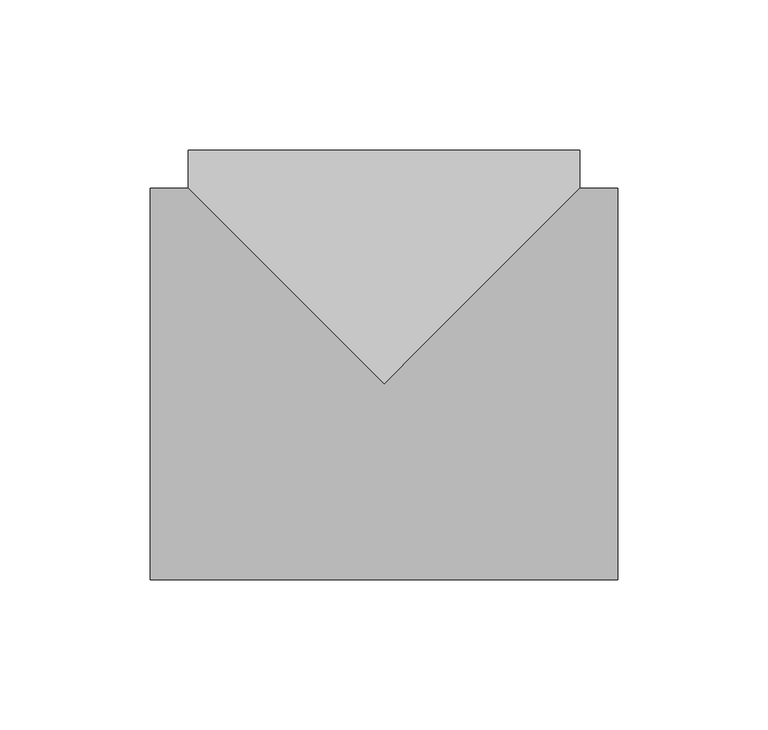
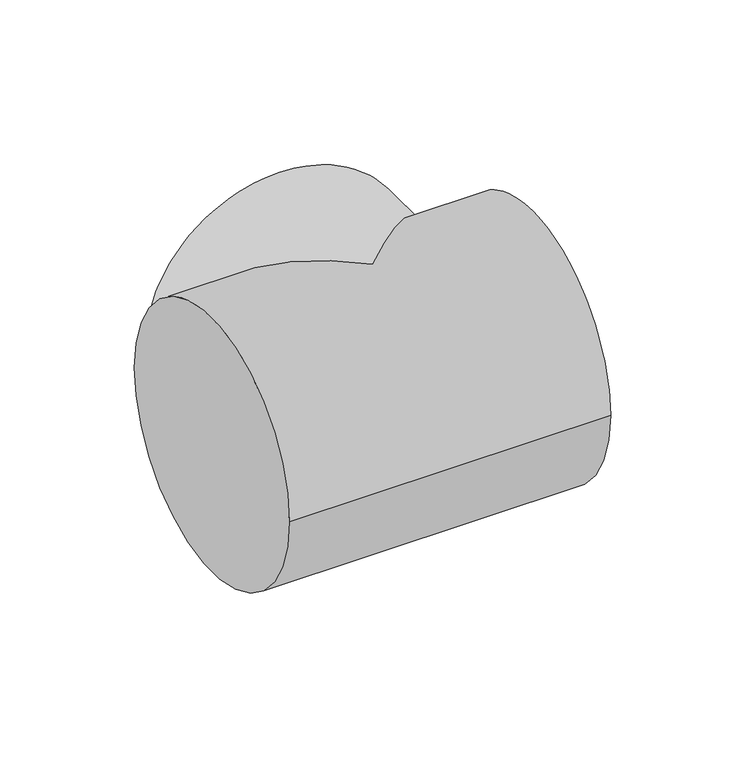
"""IFC4 building model written with IfcOpenShell, lengths in millimetres: pipe fitting geometry, M_Te - Genérica : Estándar."""

from ifc_helpers import new_model, si_unit, frame, origin, place, context, project, spatial, circle_curve, ellipse_curve, source, transform, mapped, element, save
from ifc_brep_helpers import plane_surface, cylinder_surface, advanced_brep


def pipe_fitting_66147aa9(model_context):
    return source(origin(), model_context, "Body", "AdvancedBrep", [
        advanced_brep(
        [(-77.7875, 65.0875, 0.0), (-77.7875, -65.0875, 0.0), (77.7875, 65.0875, 0.0), (77.7875, -65.0875, 0.0), (65.0940084, 65.0875, 0.0), (0.0, 0.0, 65.0875), (-65.0809922, 65.0875, 0.0), (0.0, 0.0, -65.0875), (-65.0797217, 77.7940077, 0.0), (65.0952776, 77.7809915, 0.0)],
        [
            (0, 1, circle_curve(frame((-77.7875, 0.0, 0.0), z_axis=(-1.0, 0.0, 0.0), x_axis=(0.0, -1.0, 0.0)), 65.0875)),
            (1, 0, circle_curve(frame((-77.7875, 0.0, 0.0), z_axis=(-1.0, 0.0, 0.0), x_axis=(0.0, -1.0, 0.0)), 65.0875)),
            (2, 3, circle_curve(frame((77.7875, 0.0, 0.0), z_axis=(1.0, 0.0, 0.0), x_axis=(0.0, -1.0, 0.0)), 65.0875)),
            (3, 2, circle_curve(frame((77.7875, 0.0, 0.0), z_axis=(1.0, 0.0, 0.0), x_axis=(0.0, -1.0, 0.0)), 65.0875)),
            (1, 3),
            (2, 4),
            (4, 5, ellipse_curve(frame((0.0, 0.0, 0.0), z_axis=(0.7070714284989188, -0.7071421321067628, 0.0), x_axis=(-0.7071421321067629, -0.7070714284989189, 0.0)), 92.0522275, 65.0875)),
            (5, 6, ellipse_curve(frame((0.0, 0.0, 0.0), z_axis=(-0.7071421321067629, -0.7070714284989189, 0.0), x_axis=(-0.7070714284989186, 0.7071421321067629, 0.0)), 92.0430237, 65.0875)),
            (6, 0),
            (6, 7, ellipse_curve(frame((0.0, 0.0, 0.0), z_axis=(-0.7071421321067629, -0.7070714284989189, 0.0), x_axis=(-0.7070714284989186, 0.7071421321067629, 0.0)), 92.0430237, 65.0875)),
            (7, 4, ellipse_curve(frame((0.0, 0.0, 0.0), z_axis=(0.7070714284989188, -0.7071421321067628, 0.0), x_axis=(-0.7071421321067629, -0.7070714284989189, 0.0)), 92.0522275, 65.0875)),
            (8, 9, circle_curve(frame((0.007778, 77.7874996, 0.0), z_axis=(9.999000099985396e-05, 0.9999999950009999, 0.0), x_axis=(0.9999999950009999, -9.999000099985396e-05, 0.0)), 65.0875)),
            (9, 8, circle_curve(frame((0.007778, 77.7874996, 0.0), z_axis=(9.999000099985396e-05, 0.9999999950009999, 0.0), x_axis=(0.9999999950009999, -9.999000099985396e-05, 0.0)), 65.0875)),
            (8, 6),
            (4, 9),
        ],
        [
            plane_surface(frame((-77.7875, 0.0, 0.0), z_axis=(-1.0, 0.0, 0.0), x_axis=(0.0, 0.0, 1.0))),
            plane_surface(frame((77.7875, 0.0, 0.0), z_axis=(1.0, 0.0, 0.0), x_axis=(0.0, 0.0, 1.0))),
            cylinder_surface(frame((-77.7875, 0.0, 0.0), z_axis=(-1.0, 0.0, 0.0), x_axis=(0.0, -1.0, 0.0)), 65.0875),
            plane_surface(frame((0.007778, 77.7874996, 0.0), z_axis=(9.999000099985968e-05, 0.9999999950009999, 0.0), x_axis=(0.0, 0.0, 1.0))),
            cylinder_surface(frame((0.0, 0.0, 0.0), z_axis=(-9.999000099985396e-05, -0.9999999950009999, 0.0), x_axis=(0.9999999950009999, -9.999000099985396e-05, 0.0)), 65.0875),
        ],
        [
            (0, [[1, 2]]),
            (1, [[3, 4]]),
            (2, [[5, -3, 6, 7, 8, 9, -2]]),
            (2, [[-9, 10, 11, -6, -4, -5, -1]]),
            (3, [[12, 13]]),
            (4, [[14, -8, -7, 15, -12]]),
            (4, [[-15, -11, -10, -14, -13]]),
        ],
    ),
    ])


if __name__ == "__main__":
    model = new_model("IFC4")
    model_context = context("Model", 3, world=origin())
    ifc_project = project(units=[si_unit("LENGTHUNIT", "METRE", prefix="MILLI")], contexts=[model_context])
    site = spatial("IfcSite", under=ifc_project)
    building = spatial("IfcBuilding", under=site)
    placement = place(None, origin())
    pipe_fitting_shape = pipe_fitting_66147aa9(model_context)
    element("IfcPipeFitting", 1, ObjectType="M_Te - Genérica : Estándar", at=placement, inside=building, context=model_context, shape_type="MappedRepresentation", body=[
        mapped(pipe_fitting_shape, transform((0.0, 0.0, 0.0), x_axis=(1.0, 0.0, 0.0), y_axis=(0.0, 1.0, 0.0), z_axis=(0.0, 0.0, 1.0))),
    ])
    save(model, "model.ifc")
